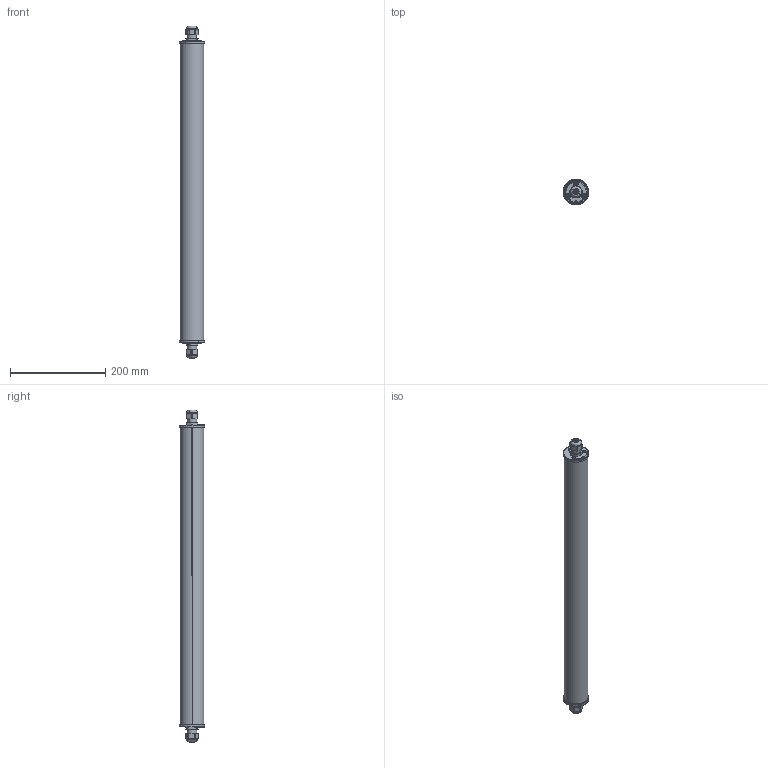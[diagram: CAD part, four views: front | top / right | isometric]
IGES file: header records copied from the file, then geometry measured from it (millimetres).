
Start section: SolidWorks IGES file using analytic representation for surfaces
Global section: file name: C:\Users\JoãoSantos\Desktop\02_3D.2D\01_2020\02_Linear\02_Tubo\01_Tubo_50\Repicagem\TUBO_50_REP_632.IGS; native system: SolidWorks 2020; preprocessor: SolidWorks 2020; author: JoãoSantos; date: 201020.174110; units: millimetre
Bounding box: 53 x 53 x 696 mm (x, y, z)
Surface area: 236002.3 mm2 (no closed solid volume)
Topology: 0 solids, 0 shells, 1534 faces, 13990 edges, 13930 vertices
Faces by surface type: revolution 856, bspline 678
